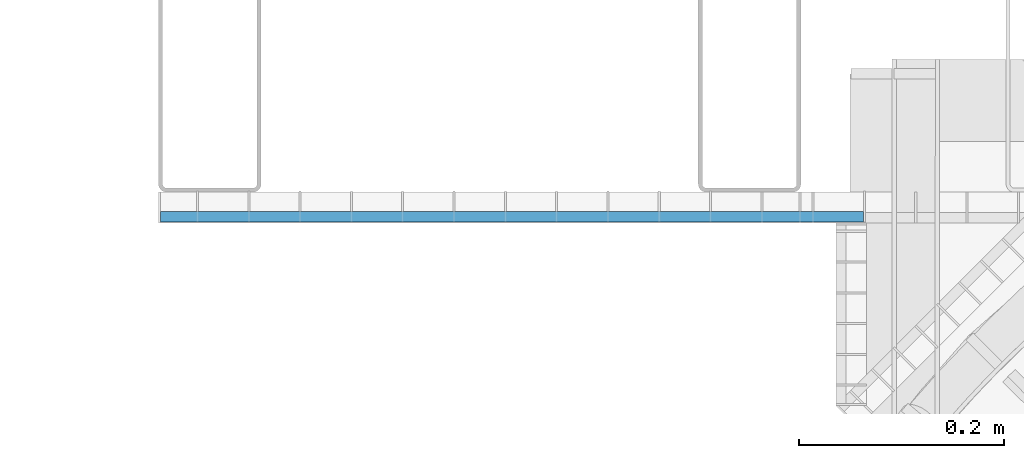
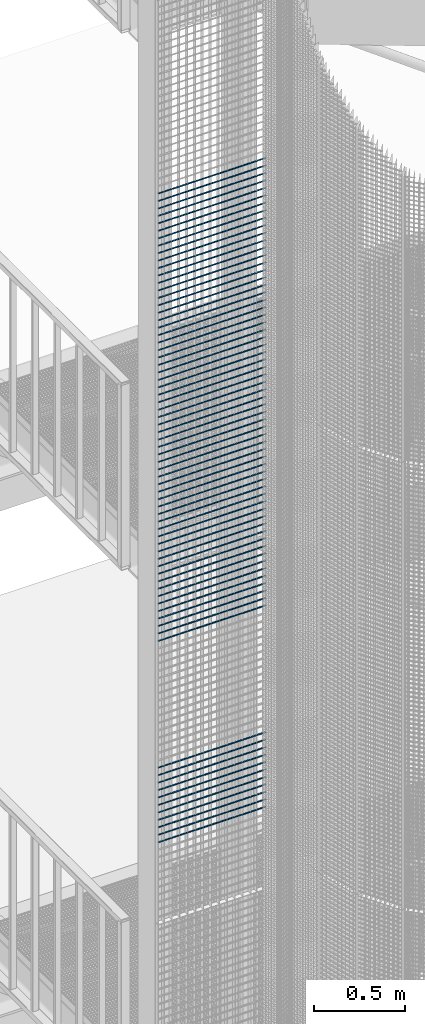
# One storey, part 213 of 1183: 72 beams, 1 element without a shape of its own.
"""IFC2X3 building model written with IfcOpenShell, lengths in millimetres."""

from ifc_helpers import new_model, si_unit, frame, origin_with_axes, origin_2d_with_axis, place, context, subcontext, project, spatial, rectangle, extrude, material, type_object, element, aggregate, save


model = new_model("IFC2X3")

# Units and contexts
model_context = context("Model", 3, precision=1e-05, world=origin_with_axes())
body_context = subcontext(model_context, "Body", "Model", "MODEL_VIEW")
ifc_project = project(units=[si_unit("LENGTHUNIT", "METRE", prefix="MILLI"), si_unit("AREAUNIT", "SQUARE_METRE"), si_unit("VOLUMEUNIT", "CUBIC_METRE"), si_unit("MASSUNIT", "GRAM", prefix="KILO"), si_unit("TIMEUNIT", "SECOND"), si_unit("PLANEANGLEUNIT", "RADIAN"), si_unit("SOLIDANGLEUNIT", "STERADIAN"), si_unit("THERMODYNAMICTEMPERATUREUNIT", "DEGREE_CELSIUS"), si_unit("LUMINOUSINTENSITYUNIT", "LUMEN")], contexts=[model_context])

# Site, building, storey
site_placement = place(None, origin_with_axes())
site = spatial("IfcSite", under=ifc_project, at=site_placement, Name="Undefined", CompositionType="ELEMENT")
building_placement = place(site_placement, origin_with_axes())
building = spatial("IfcBuilding", under=site, at=building_placement, Name="Undefined", CompositionType="ELEMENT")
storey_placement = place(building_placement, origin_with_axes())
storey = spatial("IfcBuildingStorey", under=building, at=storey_placement, Name="Undefined", CompositionType="ELEMENT", Elevation=0.0)

# Assembly, beams
assembly_placement = place(storey_placement, origin_with_axes())
assembly = element("IfcElementAssembly", 1, at=assembly_placement, inside=storey, Name="BORDURE", AssemblyPlace="NOTDEFINED", PredefinedType="NOTDEFINED")
ifc_material = material(Name="STEEL/S235JR")
beam_type = type_object("IfcBeamType", Name="PL2*10", PredefinedType="NOTDEFINED")
beam_1_placement = place(assembly_placement, frame((-1547.92041016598, 875.994689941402, 16089.998), z_axis=(0.0, -1.0, 0.0), x_axis=(1.0, 0.0, 0.0)))
beam_1 = element("IfcBeam", 2, at=beam_1_placement, type_object=beam_type, material=ifc_material, Name="ENTRETOISE", context=body_context, shape_type="SweptSolid", body=[
    extrude(rectangle(XDim=2.0, YDim=10.0, at=origin_2d_with_axis()), frame((685.0, 0.0, 0.0), z_axis=(-1.0, 0.0, 0.0), x_axis=(0.0, -1.0, 0.0)), (0.0, 0.0, 1.0), 685.0),
])
beam_2_placement = place(assembly_placement, frame((-1547.92041016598, 875.994689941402, 16039.998), z_axis=(0.0, -1.0, 0.0), x_axis=(1.0, 0.0, 0.0)))
beam_2 = element("IfcBeam", 3, at=beam_2_placement, type_object=beam_type, material=ifc_material, Name="ENTRETOISE", context=body_context, shape_type="SweptSolid", body=[
    extrude(rectangle(XDim=2.0, YDim=10.0, at=origin_2d_with_axis()), frame((685.0, 0.0, 0.0), z_axis=(-1.0, 0.0, 0.0), x_axis=(0.0, -1.0, 0.0)), (0.0, 0.0, 1.0), 685.0),
])
beam_3_placement = place(assembly_placement, frame((-1547.92041016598, 875.994689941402, 15989.998), z_axis=(0.0, -1.0, 0.0), x_axis=(1.0, 0.0, 0.0)))
beam_3 = element("IfcBeam", 4, at=beam_3_placement, type_object=beam_type, material=ifc_material, Name="ENTRETOISE", context=body_context, shape_type="SweptSolid", body=[
    extrude(rectangle(XDim=2.0, YDim=10.0, at=origin_2d_with_axis()), frame((685.0, 0.0, 0.0), z_axis=(-1.0, 0.0, 0.0), x_axis=(0.0, -1.0, 0.0)), (0.0, 0.0, 1.0), 685.0),
])
beam_4_placement = place(assembly_placement, frame((-1547.92041016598, 875.994689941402, 15939.998), z_axis=(0.0, -1.0, 0.0), x_axis=(1.0, 0.0, 0.0)))
beam_4 = element("IfcBeam", 5, at=beam_4_placement, type_object=beam_type, material=ifc_material, Name="ENTRETOISE", context=body_context, shape_type="SweptSolid", body=[
    extrude(rectangle(XDim=2.0, YDim=10.0, at=origin_2d_with_axis()), frame((685.0, 0.0, 0.0), z_axis=(-1.0, 0.0, 0.0), x_axis=(0.0, -1.0, 0.0)), (0.0, 0.0, 1.0), 685.0),
])
beam_5_placement = place(assembly_placement, frame((-1547.92041016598, 875.994689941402, 15889.998), z_axis=(0.0, -1.0, 0.0), x_axis=(1.0, 0.0, 0.0)))
beam_5 = element("IfcBeam", 6, at=beam_5_placement, type_object=beam_type, material=ifc_material, Name="ENTRETOISE", context=body_context, shape_type="SweptSolid", body=[
    extrude(rectangle(XDim=2.0, YDim=10.0, at=origin_2d_with_axis()), frame((685.0, 0.0, 0.0), z_axis=(-1.0, 0.0, 0.0), x_axis=(0.0, -1.0, 0.0)), (0.0, 0.0, 1.0), 685.0),
])
beam_6_placement = place(assembly_placement, frame((-1547.92041016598, 875.994689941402, 15839.998), z_axis=(0.0, -1.0, 0.0), x_axis=(1.0, 0.0, 0.0)))
beam_6 = element("IfcBeam", 7, at=beam_6_placement, type_object=beam_type, material=ifc_material, Name="ENTRETOISE", context=body_context, shape_type="SweptSolid", body=[
    extrude(rectangle(XDim=2.0, YDim=10.0, at=origin_2d_with_axis()), frame((685.0, 0.0, 0.0), z_axis=(-1.0, 0.0, 0.0), x_axis=(0.0, -1.0, 0.0)), (0.0, 0.0, 1.0), 685.0),
])
beam_7_placement = place(assembly_placement, frame((-1547.92041016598, 875.994689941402, 15789.998), z_axis=(0.0, -1.0, 0.0), x_axis=(1.0, 0.0, 0.0)))
beam_7 = element("IfcBeam", 8, at=beam_7_placement, type_object=beam_type, material=ifc_material, Name="ENTRETOISE", context=body_context, shape_type="SweptSolid", body=[
    extrude(rectangle(XDim=2.0, YDim=10.0, at=origin_2d_with_axis()), frame((685.0, 0.0, 0.0), z_axis=(-1.0, 0.0, 0.0), x_axis=(0.0, -1.0, 0.0)), (0.0, 0.0, 1.0), 685.0),
])
beam_8_placement = place(assembly_placement, frame((-1547.92041016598, 875.994689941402, 15739.998), z_axis=(0.0, -1.0, 0.0), x_axis=(1.0, 0.0, 0.0)))
beam_8 = element("IfcBeam", 9, at=beam_8_placement, type_object=beam_type, material=ifc_material, Name="ENTRETOISE", context=body_context, shape_type="SweptSolid", body=[
    extrude(rectangle(XDim=2.0, YDim=10.0, at=origin_2d_with_axis()), frame((685.0, 0.0, 0.0), z_axis=(-1.0, 0.0, 0.0), x_axis=(0.0, -1.0, 0.0)), (0.0, 0.0, 1.0), 685.0),
])
beam_9_placement = place(assembly_placement, frame((-1547.92041016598, 875.994689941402, 15689.998), z_axis=(0.0, -1.0, 0.0), x_axis=(1.0, 0.0, 0.0)))
beam_9 = element("IfcBeam", 10, at=beam_9_placement, type_object=beam_type, material=ifc_material, Name="ENTRETOISE", context=body_context, shape_type="SweptSolid", body=[
    extrude(rectangle(XDim=2.0, YDim=10.0, at=origin_2d_with_axis()), frame((685.0, 0.0, 0.0), z_axis=(-1.0, 0.0, 0.0), x_axis=(0.0, -1.0, 0.0)), (0.0, 0.0, 1.0), 685.0),
])
beam_10_placement = place(assembly_placement, frame((-1547.92041016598, 875.994689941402, 15639.998), z_axis=(0.0, -1.0, 0.0), x_axis=(1.0, 0.0, 0.0)))
beam_10 = element("IfcBeam", 11, at=beam_10_placement, type_object=beam_type, material=ifc_material, Name="ENTRETOISE", context=body_context, shape_type="SweptSolid", body=[
    extrude(rectangle(XDim=2.0, YDim=10.0, at=origin_2d_with_axis()), frame((685.0, 0.0, 0.0), z_axis=(-1.0, 0.0, 0.0), x_axis=(0.0, -1.0, 0.0)), (0.0, 0.0, 1.0), 685.0),
])
beam_11_placement = place(assembly_placement, frame((-1547.92041016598, 875.994689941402, 15589.998), z_axis=(0.0, -1.0, 0.0), x_axis=(1.0, 0.0, 0.0)))
beam_11 = element("IfcBeam", 12, at=beam_11_placement, type_object=beam_type, material=ifc_material, Name="ENTRETOISE", context=body_context, shape_type="SweptSolid", body=[
    extrude(rectangle(XDim=2.0, YDim=10.0, at=origin_2d_with_axis()), frame((685.0, 0.0, 0.0), z_axis=(-1.0, 0.0, 0.0), x_axis=(0.0, -1.0, 0.0)), (0.0, 0.0, 1.0), 685.0),
])
beam_12_placement = place(assembly_placement, frame((-1547.92041016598, 875.994689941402, 15539.998), z_axis=(0.0, -1.0, 0.0), x_axis=(1.0, 0.0, 0.0)))
beam_12 = element("IfcBeam", 13, at=beam_12_placement, type_object=beam_type, material=ifc_material, Name="ENTRETOISE", context=body_context, shape_type="SweptSolid", body=[
    extrude(rectangle(XDim=2.0, YDim=10.0, at=origin_2d_with_axis()), frame((685.0, 0.0, 0.0), z_axis=(-1.0, 0.0, 0.0), x_axis=(0.0, -1.0, 0.0)), (0.0, 0.0, 1.0), 685.0),
])
beam_13_placement = place(assembly_placement, frame((-1547.92041016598, 875.994689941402, 15489.998), z_axis=(0.0, -1.0, 0.0), x_axis=(1.0, 0.0, 0.0)))
beam_13 = element("IfcBeam", 14, at=beam_13_placement, type_object=beam_type, material=ifc_material, Name="ENTRETOISE", context=body_context, shape_type="SweptSolid", body=[
    extrude(rectangle(XDim=2.0, YDim=10.0, at=origin_2d_with_axis()), frame((685.0, 0.0, 0.0), z_axis=(-1.0, 0.0, 0.0), x_axis=(0.0, -1.0, 0.0)), (0.0, 0.0, 1.0), 685.0),
])
beam_14_placement = place(assembly_placement, frame((-1547.92041016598, 875.994689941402, 15439.998), z_axis=(0.0, -1.0, 0.0), x_axis=(1.0, 0.0, 0.0)))
beam_14 = element("IfcBeam", 15, at=beam_14_placement, type_object=beam_type, material=ifc_material, Name="ENTRETOISE", context=body_context, shape_type="SweptSolid", body=[
    extrude(rectangle(XDim=2.0, YDim=10.0, at=origin_2d_with_axis()), frame((685.0, 0.0, 0.0), z_axis=(-1.0, 0.0, 0.0), x_axis=(0.0, -1.0, 0.0)), (0.0, 0.0, 1.0), 685.0),
])
beam_15_placement = place(assembly_placement, frame((-1547.92041016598, 875.994689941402, 15389.998), z_axis=(0.0, -1.0, 0.0), x_axis=(1.0, 0.0, 0.0)))
beam_15 = element("IfcBeam", 16, at=beam_15_placement, type_object=beam_type, material=ifc_material, Name="ENTRETOISE", context=body_context, shape_type="SweptSolid", body=[
    extrude(rectangle(XDim=2.0, YDim=10.0, at=origin_2d_with_axis()), frame((685.0, 0.0, 0.0), z_axis=(-1.0, 0.0, 0.0), x_axis=(0.0, -1.0, 0.0)), (0.0, 0.0, 1.0), 685.0),
])
beam_16_placement = place(assembly_placement, frame((-1547.92041016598, 875.994689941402, 15339.998), z_axis=(0.0, -1.0, 0.0), x_axis=(1.0, 0.0, 0.0)))
beam_16 = element("IfcBeam", 17, at=beam_16_placement, type_object=beam_type, material=ifc_material, Name="ENTRETOISE", context=body_context, shape_type="SweptSolid", body=[
    extrude(rectangle(XDim=2.0, YDim=10.0, at=origin_2d_with_axis()), frame((685.0, 0.0, 0.0), z_axis=(-1.0, 0.0, 0.0), x_axis=(0.0, -1.0, 0.0)), (0.0, 0.0, 1.0), 685.0),
])
beam_17_placement = place(assembly_placement, frame((-1547.92041016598, 875.994689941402, 15289.998), z_axis=(0.0, -1.0, 0.0), x_axis=(1.0, 0.0, 0.0)))
beam_17 = element("IfcBeam", 18, at=beam_17_placement, type_object=beam_type, material=ifc_material, Name="ENTRETOISE", context=body_context, shape_type="SweptSolid", body=[
    extrude(rectangle(XDim=2.0, YDim=10.0, at=origin_2d_with_axis()), frame((685.0, 0.0, 0.0), z_axis=(-1.0, 0.0, 0.0), x_axis=(0.0, -1.0, 0.0)), (0.0, 0.0, 1.0), 685.0),
])
beam_18_placement = place(assembly_placement, frame((-1547.92041016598, 875.994689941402, 15239.998), z_axis=(0.0, -1.0, 0.0), x_axis=(1.0, 0.0, 0.0)))
beam_18 = element("IfcBeam", 19, at=beam_18_placement, type_object=beam_type, material=ifc_material, Name="ENTRETOISE", context=body_context, shape_type="SweptSolid", body=[
    extrude(rectangle(XDim=2.0, YDim=10.0, at=origin_2d_with_axis()), frame((685.0, 0.0, 0.0), z_axis=(-1.0, 0.0, 0.0), x_axis=(0.0, -1.0, 0.0)), (0.0, 0.0, 1.0), 685.0),
])
beam_19_placement = place(assembly_placement, frame((-1547.92041016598, 875.994689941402, 15189.998), z_axis=(0.0, -1.0, 0.0), x_axis=(1.0, 0.0, 0.0)))
beam_19 = element("IfcBeam", 20, at=beam_19_placement, type_object=beam_type, material=ifc_material, Name="ENTRETOISE", context=body_context, shape_type="SweptSolid", body=[
    extrude(rectangle(XDim=2.0, YDim=10.0, at=origin_2d_with_axis()), frame((685.0, 0.0, 0.0), z_axis=(-1.0, 0.0, 0.0), x_axis=(0.0, -1.0, 0.0)), (0.0, 0.0, 1.0), 685.0),
])
beam_20_placement = place(assembly_placement, frame((-1547.92041016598, 875.994689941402, 15139.998), z_axis=(0.0, -1.0, 0.0), x_axis=(1.0, 0.0, 0.0)))
beam_20 = element("IfcBeam", 21, at=beam_20_placement, type_object=beam_type, material=ifc_material, Name="ENTRETOISE", context=body_context, shape_type="SweptSolid", body=[
    extrude(rectangle(XDim=2.0, YDim=10.0, at=origin_2d_with_axis()), frame((685.0, 0.0, 0.0), z_axis=(-1.0, 0.0, 0.0), x_axis=(0.0, -1.0, 0.0)), (0.0, 0.0, 1.0), 685.0),
])
beam_21_placement = place(assembly_placement, frame((-1547.92041016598, 875.994689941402, 15089.998), z_axis=(0.0, -1.0, 0.0), x_axis=(1.0, 0.0, 0.0)))
beam_21 = element("IfcBeam", 22, at=beam_21_placement, type_object=beam_type, material=ifc_material, Name="ENTRETOISE", context=body_context, shape_type="SweptSolid", body=[
    extrude(rectangle(XDim=2.0, YDim=10.0, at=origin_2d_with_axis()), frame((685.0, 0.0, 0.0), z_axis=(-1.0, 0.0, 0.0), x_axis=(0.0, -1.0, 0.0)), (0.0, 0.0, 1.0), 685.0),
])
beam_22_placement = place(assembly_placement, frame((-1547.92041016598, 875.994689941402, 15039.998), z_axis=(0.0, -1.0, 0.0), x_axis=(1.0, 0.0, 0.0)))
beam_22 = element("IfcBeam", 23, at=beam_22_placement, type_object=beam_type, material=ifc_material, Name="ENTRETOISE", context=body_context, shape_type="SweptSolid", body=[
    extrude(rectangle(XDim=2.0, YDim=10.0, at=origin_2d_with_axis()), frame((685.0, 0.0, 0.0), z_axis=(-1.0, 0.0, 0.0), x_axis=(0.0, -1.0, 0.0)), (0.0, 0.0, 1.0), 685.0),
])
beam_23_placement = place(assembly_placement, frame((-1547.92041016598, 875.994689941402, 14989.998), z_axis=(0.0, -1.0, 0.0), x_axis=(1.0, 0.0, 0.0)))
beam_23 = element("IfcBeam", 24, at=beam_23_placement, type_object=beam_type, material=ifc_material, Name="ENTRETOISE", context=body_context, shape_type="SweptSolid", body=[
    extrude(rectangle(XDim=2.0, YDim=10.0, at=origin_2d_with_axis()), frame((685.0, 0.0, 0.0), z_axis=(-1.0, 0.0, 0.0), x_axis=(0.0, -1.0, 0.0)), (0.0, 0.0, 1.0), 685.0),
])
beam_24_placement = place(assembly_placement, frame((-1547.92041016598, 875.994689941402, 14939.998), z_axis=(0.0, -1.0, 0.0), x_axis=(1.0, 0.0, 0.0)))
beam_24 = element("IfcBeam", 25, at=beam_24_placement, type_object=beam_type, material=ifc_material, Name="ENTRETOISE", context=body_context, shape_type="SweptSolid", body=[
    extrude(rectangle(XDim=2.0, YDim=10.0, at=origin_2d_with_axis()), frame((685.0, 0.0, 0.0), z_axis=(-1.0, 0.0, 0.0), x_axis=(0.0, -1.0, 0.0)), (0.0, 0.0, 1.0), 685.0),
])
beam_25_placement = place(assembly_placement, frame((-1547.92041016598, 875.994689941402, 14889.998), z_axis=(0.0, -1.0, 0.0), x_axis=(1.0, 0.0, 0.0)))
beam_25 = element("IfcBeam", 26, at=beam_25_placement, type_object=beam_type, material=ifc_material, Name="ENTRETOISE", context=body_context, shape_type="SweptSolid", body=[
    extrude(rectangle(XDim=2.0, YDim=10.0, at=origin_2d_with_axis()), frame((685.0, 0.0, 0.0), z_axis=(-1.0, 0.0, 0.0), x_axis=(0.0, -1.0, 0.0)), (0.0, 0.0, 1.0), 685.0),
])
beam_26_placement = place(assembly_placement, frame((-1547.92041016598, 875.994689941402, 14839.998), z_axis=(0.0, -1.0, 0.0), x_axis=(1.0, 0.0, 0.0)))
beam_26 = element("IfcBeam", 27, at=beam_26_placement, type_object=beam_type, material=ifc_material, Name="ENTRETOISE", context=body_context, shape_type="SweptSolid", body=[
    extrude(rectangle(XDim=2.0, YDim=10.0, at=origin_2d_with_axis()), frame((685.0, 0.0, 0.0), z_axis=(-1.0, 0.0, 0.0), x_axis=(0.0, -1.0, 0.0)), (0.0, 0.0, 1.0), 685.0),
])
beam_27_placement = place(assembly_placement, frame((-1547.92041016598, 875.994689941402, 14789.998), z_axis=(0.0, -1.0, 0.0), x_axis=(1.0, 0.0, 0.0)))
beam_27 = element("IfcBeam", 28, at=beam_27_placement, type_object=beam_type, material=ifc_material, Name="ENTRETOISE", context=body_context, shape_type="SweptSolid", body=[
    extrude(rectangle(XDim=2.0, YDim=10.0, at=origin_2d_with_axis()), frame((685.0, 0.0, 0.0), z_axis=(-1.0, 0.0, 0.0), x_axis=(0.0, -1.0, 0.0)), (0.0, 0.0, 1.0), 685.0),
])
beam_28_placement = place(assembly_placement, frame((-1547.92041016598, 875.994689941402, 14739.998), z_axis=(0.0, -1.0, 0.0), x_axis=(1.0, 0.0, 0.0)))
beam_28 = element("IfcBeam", 29, at=beam_28_placement, type_object=beam_type, material=ifc_material, Name="ENTRETOISE", context=body_context, shape_type="SweptSolid", body=[
    extrude(rectangle(XDim=2.0, YDim=10.0, at=origin_2d_with_axis()), frame((685.0, 0.0, 0.0), z_axis=(-1.0, 0.0, 0.0), x_axis=(0.0, -1.0, 0.0)), (0.0, 0.0, 1.0), 685.0),
])
beam_29_placement = place(assembly_placement, frame((-1547.92041016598, 875.994689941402, 14689.998), z_axis=(0.0, -1.0, 0.0), x_axis=(1.0, 0.0, 0.0)))
beam_29 = element("IfcBeam", 30, at=beam_29_placement, type_object=beam_type, material=ifc_material, Name="ENTRETOISE", context=body_context, shape_type="SweptSolid", body=[
    extrude(rectangle(XDim=2.0, YDim=10.0, at=origin_2d_with_axis()), frame((685.0, 0.0, 0.0), z_axis=(-1.0, 0.0, 0.0), x_axis=(0.0, -1.0, 0.0)), (0.0, 0.0, 1.0), 685.0),
])
beam_30_placement = place(assembly_placement, frame((-1547.92041016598, 875.994689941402, 14639.998), z_axis=(0.0, -1.0, 0.0), x_axis=(1.0, 0.0, 0.0)))
beam_30 = element("IfcBeam", 31, at=beam_30_placement, type_object=beam_type, material=ifc_material, Name="ENTRETOISE", context=body_context, shape_type="SweptSolid", body=[
    extrude(rectangle(XDim=2.0, YDim=10.0, at=origin_2d_with_axis()), frame((685.0, 0.0, 0.0), z_axis=(-1.0, 0.0, 0.0), x_axis=(0.0, -1.0, 0.0)), (0.0, 0.0, 1.0), 685.0),
])
beam_31_placement = place(assembly_placement, frame((-1547.92041016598, 875.994689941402, 14589.998), z_axis=(0.0, -1.0, 0.0), x_axis=(1.0, 0.0, 0.0)))
beam_31 = element("IfcBeam", 32, at=beam_31_placement, type_object=beam_type, material=ifc_material, Name="ENTRETOISE", context=body_context, shape_type="SweptSolid", body=[
    extrude(rectangle(XDim=2.0, YDim=10.0, at=origin_2d_with_axis()), frame((685.0, 0.0, 0.0), z_axis=(-1.0, 0.0, 0.0), x_axis=(0.0, -1.0, 0.0)), (0.0, 0.0, 1.0), 685.0),
])
beam_32_placement = place(assembly_placement, frame((-1547.92041016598, 875.994689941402, 14539.998), z_axis=(0.0, -1.0, 0.0), x_axis=(1.0, 0.0, 0.0)))
beam_32 = element("IfcBeam", 33, at=beam_32_placement, type_object=beam_type, material=ifc_material, Name="ENTRETOISE", context=body_context, shape_type="SweptSolid", body=[
    extrude(rectangle(XDim=2.0, YDim=10.0, at=origin_2d_with_axis()), frame((685.0, 0.0, 0.0), z_axis=(-1.0, 0.0, 0.0), x_axis=(0.0, -1.0, 0.0)), (0.0, 0.0, 1.0), 685.0),
])
beam_33_placement = place(assembly_placement, frame((-1547.92041016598, 875.994689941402, 14489.998), z_axis=(0.0, -1.0, 0.0), x_axis=(1.0, 0.0, 0.0)))
beam_33 = element("IfcBeam", 34, at=beam_33_placement, type_object=beam_type, material=ifc_material, Name="ENTRETOISE", context=body_context, shape_type="SweptSolid", body=[
    extrude(rectangle(XDim=2.0, YDim=10.0, at=origin_2d_with_axis()), frame((685.0, 0.0, 0.0), z_axis=(-1.0, 0.0, 0.0), x_axis=(0.0, -1.0, 0.0)), (0.0, 0.0, 1.0), 685.0),
])
beam_34_placement = place(assembly_placement, frame((-1547.92041016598, 875.994689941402, 14439.998), z_axis=(0.0, -1.0, 0.0), x_axis=(1.0, 0.0, 0.0)))
beam_34 = element("IfcBeam", 35, at=beam_34_placement, type_object=beam_type, material=ifc_material, Name="ENTRETOISE", context=body_context, shape_type="SweptSolid", body=[
    extrude(rectangle(XDim=2.0, YDim=10.0, at=origin_2d_with_axis()), frame((685.0, 0.0, 0.0), z_axis=(-1.0, 0.0, 0.0), x_axis=(0.0, -1.0, 0.0)), (0.0, 0.0, 1.0), 685.0),
])
beam_35_placement = place(assembly_placement, frame((-1547.92041016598, 875.994689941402, 14389.998), z_axis=(0.0, -1.0, 0.0), x_axis=(1.0, 0.0, 0.0)))
beam_35 = element("IfcBeam", 36, at=beam_35_placement, type_object=beam_type, material=ifc_material, Name="ENTRETOISE", context=body_context, shape_type="SweptSolid", body=[
    extrude(rectangle(XDim=2.0, YDim=10.0, at=origin_2d_with_axis()), frame((685.0, 0.0, 0.0), z_axis=(-1.0, 0.0, 0.0), x_axis=(0.0, -1.0, 0.0)), (0.0, 0.0, 1.0), 685.0),
])
beam_36_placement = place(assembly_placement, frame((-1547.92041016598, 875.994689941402, 14339.998), z_axis=(0.0, -1.0, 0.0), x_axis=(1.0, 0.0, 0.0)))
beam_36 = element("IfcBeam", 37, at=beam_36_placement, type_object=beam_type, material=ifc_material, Name="ENTRETOISE", context=body_context, shape_type="SweptSolid", body=[
    extrude(rectangle(XDim=2.0, YDim=10.0, at=origin_2d_with_axis()), frame((685.0, 0.0, 0.0), z_axis=(-1.0, 0.0, 0.0), x_axis=(0.0, -1.0, 0.0)), (0.0, 0.0, 1.0), 685.0),
])
beam_37_placement = place(assembly_placement, frame((-1547.92041016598, 875.994689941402, 14289.998), z_axis=(0.0, -1.0, 0.0), x_axis=(1.0, 0.0, 0.0)))
beam_37 = element("IfcBeam", 38, at=beam_37_placement, type_object=beam_type, material=ifc_material, Name="ENTRETOISE", context=body_context, shape_type="SweptSolid", body=[
    extrude(rectangle(XDim=2.0, YDim=10.0, at=origin_2d_with_axis()), frame((685.0, 0.0, 0.0), z_axis=(-1.0, 0.0, 0.0), x_axis=(0.0, -1.0, 0.0)), (0.0, 0.0, 1.0), 685.0),
])
beam_38_placement = place(assembly_placement, frame((-1547.92041016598, 875.994689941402, 14239.998), z_axis=(0.0, -1.0, 0.0), x_axis=(1.0, 0.0, 0.0)))
beam_38 = element("IfcBeam", 39, at=beam_38_placement, type_object=beam_type, material=ifc_material, Name="ENTRETOISE", context=body_context, shape_type="SweptSolid", body=[
    extrude(rectangle(XDim=2.0, YDim=10.0, at=origin_2d_with_axis()), frame((685.0, 0.0, 0.0), z_axis=(-1.0, 0.0, 0.0), x_axis=(0.0, -1.0, 0.0)), (0.0, 0.0, 1.0), 685.0),
])
beam_39_placement = place(assembly_placement, frame((-1547.92041016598, 875.994689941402, 14189.998), z_axis=(0.0, -1.0, 0.0), x_axis=(1.0, 0.0, 0.0)))
beam_39 = element("IfcBeam", 40, at=beam_39_placement, type_object=beam_type, material=ifc_material, Name="ENTRETOISE", context=body_context, shape_type="SweptSolid", body=[
    extrude(rectangle(XDim=2.0, YDim=10.0, at=origin_2d_with_axis()), frame((685.0, 0.0, 0.0), z_axis=(-1.0, 0.0, 0.0), x_axis=(0.0, -1.0, 0.0)), (0.0, 0.0, 1.0), 685.0),
])
beam_40_placement = place(assembly_placement, frame((-1547.92041016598, 875.994689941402, 14139.998), z_axis=(0.0, -1.0, 0.0), x_axis=(1.0, 0.0, 0.0)))
beam_40 = element("IfcBeam", 41, at=beam_40_placement, type_object=beam_type, material=ifc_material, Name="ENTRETOISE", context=body_context, shape_type="SweptSolid", body=[
    extrude(rectangle(XDim=2.0, YDim=10.0, at=origin_2d_with_axis()), frame((685.0, 0.0, 0.0), z_axis=(-1.0, 0.0, 0.0), x_axis=(0.0, -1.0, 0.0)), (0.0, 0.0, 1.0), 685.0),
])
beam_41_placement = place(assembly_placement, frame((-1547.92041016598, 875.994689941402, 14089.998), z_axis=(0.0, -1.0, 0.0), x_axis=(1.0, 0.0, 0.0)))
beam_41 = element("IfcBeam", 42, at=beam_41_placement, type_object=beam_type, material=ifc_material, Name="ENTRETOISE", context=body_context, shape_type="SweptSolid", body=[
    extrude(rectangle(XDim=2.0, YDim=10.0, at=origin_2d_with_axis()), frame((685.0, 0.0, 0.0), z_axis=(-1.0, 0.0, 0.0), x_axis=(0.0, -1.0, 0.0)), (0.0, 0.0, 1.0), 685.0),
])
beam_42_placement = place(assembly_placement, frame((-1547.92041016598, 875.994689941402, 14039.998), z_axis=(0.0, -1.0, 0.0), x_axis=(1.0, 0.0, 0.0)))
beam_42 = element("IfcBeam", 43, at=beam_42_placement, type_object=beam_type, material=ifc_material, Name="ENTRETOISE", context=body_context, shape_type="SweptSolid", body=[
    extrude(rectangle(XDim=2.0, YDim=10.0, at=origin_2d_with_axis()), frame((685.0, 0.0, 0.0), z_axis=(-1.0, 0.0, 0.0), x_axis=(0.0, -1.0, 0.0)), (0.0, 0.0, 1.0), 685.0),
])
beam_43_placement = place(assembly_placement, frame((-1547.92041016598, 875.994689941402, 13989.998), z_axis=(0.0, -1.0, 0.0), x_axis=(1.0, 0.0, 0.0)))
beam_43 = element("IfcBeam", 44, at=beam_43_placement, type_object=beam_type, material=ifc_material, Name="ENTRETOISE", context=body_context, shape_type="SweptSolid", body=[
    extrude(rectangle(XDim=2.0, YDim=10.0, at=origin_2d_with_axis()), frame((685.0, 0.0, 0.0), z_axis=(-1.0, 0.0, 0.0), x_axis=(0.0, -1.0, 0.0)), (0.0, 0.0, 1.0), 685.0),
])
beam_44_placement = place(assembly_placement, frame((-1547.92041016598, 875.994689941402, 13939.998), z_axis=(0.0, -1.0, 0.0), x_axis=(1.0, 0.0, 0.0)))
beam_44 = element("IfcBeam", 45, at=beam_44_placement, type_object=beam_type, material=ifc_material, Name="ENTRETOISE", context=body_context, shape_type="SweptSolid", body=[
    extrude(rectangle(XDim=2.0, YDim=10.0, at=origin_2d_with_axis()), frame((685.0, 0.0, 0.0), z_axis=(-1.0, 0.0, 0.0), x_axis=(0.0, -1.0, 0.0)), (0.0, 0.0, 1.0), 685.0),
])
beam_45_placement = place(assembly_placement, frame((-1547.92041016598, 875.994689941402, 13889.998), z_axis=(0.0, -1.0, 0.0), x_axis=(1.0, 0.0, 0.0)))
beam_45 = element("IfcBeam", 46, at=beam_45_placement, type_object=beam_type, material=ifc_material, Name="ENTRETOISE", context=body_context, shape_type="SweptSolid", body=[
    extrude(rectangle(XDim=2.0, YDim=10.0, at=origin_2d_with_axis()), frame((685.0, 0.0, 0.0), z_axis=(-1.0, 0.0, 0.0), x_axis=(0.0, -1.0, 0.0)), (0.0, 0.0, 1.0), 685.0),
])
beam_46_placement = place(assembly_placement, frame((-1547.92041016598, 875.994689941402, 13839.998), z_axis=(0.0, -1.0, 0.0), x_axis=(1.0, 0.0, 0.0)))
beam_46 = element("IfcBeam", 47, at=beam_46_placement, type_object=beam_type, material=ifc_material, Name="ENTRETOISE", context=body_context, shape_type="SweptSolid", body=[
    extrude(rectangle(XDim=2.0, YDim=10.0, at=origin_2d_with_axis()), frame((685.0, 0.0, 0.0), z_axis=(-1.0, 0.0, 0.0), x_axis=(0.0, -1.0, 0.0)), (0.0, 0.0, 1.0), 685.0),
])
beam_47_placement = place(assembly_placement, frame((-1547.92041016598, 875.994689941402, 13789.998), z_axis=(0.0, -1.0, 0.0), x_axis=(1.0, 0.0, 0.0)))
beam_47 = element("IfcBeam", 48, at=beam_47_placement, type_object=beam_type, material=ifc_material, Name="ENTRETOISE", context=body_context, shape_type="SweptSolid", body=[
    extrude(rectangle(XDim=2.0, YDim=10.0, at=origin_2d_with_axis()), frame((685.0, 0.0, 0.0), z_axis=(-1.0, 0.0, 0.0), x_axis=(0.0, -1.0, 0.0)), (0.0, 0.0, 1.0), 685.0),
])
beam_48_placement = place(assembly_placement, frame((-1547.92041016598, 875.994689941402, 13739.998), z_axis=(0.0, -1.0, 0.0), x_axis=(1.0, 0.0, 0.0)))
beam_48 = element("IfcBeam", 49, at=beam_48_placement, type_object=beam_type, material=ifc_material, Name="ENTRETOISE", context=body_context, shape_type="SweptSolid", body=[
    extrude(rectangle(XDim=2.0, YDim=10.0, at=origin_2d_with_axis()), frame((685.0, 0.0, 0.0), z_axis=(-1.0, 0.0, 0.0), x_axis=(0.0, -1.0, 0.0)), (0.0, 0.0, 1.0), 685.0),
])
beam_49_placement = place(assembly_placement, frame((-1547.92041016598, 875.994689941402, 13689.998), z_axis=(0.0, -1.0, 0.0), x_axis=(1.0, 0.0, 0.0)))
beam_49 = element("IfcBeam", 50, at=beam_49_placement, type_object=beam_type, material=ifc_material, Name="ENTRETOISE", context=body_context, shape_type="SweptSolid", body=[
    extrude(rectangle(XDim=2.0, YDim=10.0, at=origin_2d_with_axis()), frame((685.0, 0.0, 0.0), z_axis=(-1.0, 0.0, 0.0), x_axis=(0.0, -1.0, 0.0)), (0.0, 0.0, 1.0), 685.0),
])
beam_50_placement = place(assembly_placement, frame((-1547.92041016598, 875.994689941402, 13639.998), z_axis=(0.0, -1.0, 0.0), x_axis=(1.0, 0.0, 0.0)))
beam_50 = element("IfcBeam", 51, at=beam_50_placement, type_object=beam_type, material=ifc_material, Name="ENTRETOISE", context=body_context, shape_type="SweptSolid", body=[
    extrude(rectangle(XDim=2.0, YDim=10.0, at=origin_2d_with_axis()), frame((685.0, 0.0, 0.0), z_axis=(-1.0, 0.0, 0.0), x_axis=(0.0, -1.0, 0.0)), (0.0, 0.0, 1.0), 685.0),
])
beam_51_placement = place(assembly_placement, frame((-1547.92041016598, 875.994689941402, 13589.998), z_axis=(0.0, -1.0, 0.0), x_axis=(1.0, 0.0, 0.0)))
beam_51 = element("IfcBeam", 52, at=beam_51_placement, type_object=beam_type, material=ifc_material, Name="ENTRETOISE", context=body_context, shape_type="SweptSolid", body=[
    extrude(rectangle(XDim=2.0, YDim=10.0, at=origin_2d_with_axis()), frame((685.0, 0.0, 0.0), z_axis=(-1.0, 0.0, 0.0), x_axis=(0.0, -1.0, 0.0)), (0.0, 0.0, 1.0), 685.0),
])
beam_52_placement = place(assembly_placement, frame((-1547.92041016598, 875.994689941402, 13539.998), z_axis=(0.0, -1.0, 0.0), x_axis=(1.0, 0.0, 0.0)))
beam_52 = element("IfcBeam", 53, at=beam_52_placement, type_object=beam_type, material=ifc_material, Name="ENTRETOISE", context=body_context, shape_type="SweptSolid", body=[
    extrude(rectangle(XDim=2.0, YDim=10.0, at=origin_2d_with_axis()), frame((685.0, 0.0, 0.0), z_axis=(-1.0, 0.0, 0.0), x_axis=(0.0, -1.0, 0.0)), (0.0, 0.0, 1.0), 685.0),
])
beam_53_placement = place(assembly_placement, frame((-1547.92041016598, 875.994689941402, 13489.998), z_axis=(0.0, -1.0, 0.0), x_axis=(1.0, 0.0, 0.0)))
beam_53 = element("IfcBeam", 54, at=beam_53_placement, type_object=beam_type, material=ifc_material, Name="ENTRETOISE", context=body_context, shape_type="SweptSolid", body=[
    extrude(rectangle(XDim=2.0, YDim=10.0, at=origin_2d_with_axis()), frame((685.0, 0.0, 0.0), z_axis=(-1.0, 0.0, 0.0), x_axis=(0.0, -1.0, 0.0)), (0.0, 0.0, 1.0), 685.0),
])
beam_54_placement = place(assembly_placement, frame((-1547.92041016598, 875.994689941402, 13439.998), z_axis=(0.0, -1.0, 0.0), x_axis=(1.0, 0.0, 0.0)))
beam_54 = element("IfcBeam", 55, at=beam_54_placement, type_object=beam_type, material=ifc_material, Name="ENTRETOISE", context=body_context, shape_type="SweptSolid", body=[
    extrude(rectangle(XDim=2.0, YDim=10.0, at=origin_2d_with_axis()), frame((685.0, 0.0, 0.0), z_axis=(-1.0, 0.0, 0.0), x_axis=(0.0, -1.0, 0.0)), (0.0, 0.0, 1.0), 685.0),
])
beam_55_placement = place(assembly_placement, frame((-1547.92041016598, 875.994689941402, 13389.998), z_axis=(0.0, -1.0, 0.0), x_axis=(1.0, 0.0, 0.0)))
beam_55 = element("IfcBeam", 56, at=beam_55_placement, type_object=beam_type, material=ifc_material, Name="ENTRETOISE", context=body_context, shape_type="SweptSolid", body=[
    extrude(rectangle(XDim=2.0, YDim=10.0, at=origin_2d_with_axis()), frame((685.0, 0.0, 0.0), z_axis=(-1.0, 0.0, 0.0), x_axis=(0.0, -1.0, 0.0)), (0.0, 0.0, 1.0), 685.0),
])
beam_56_placement = place(assembly_placement, frame((-1547.92041016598, 875.994689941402, 13339.998), z_axis=(0.0, -1.0, 0.0), x_axis=(1.0, 0.0, 0.0)))
beam_56 = element("IfcBeam", 57, at=beam_56_placement, type_object=beam_type, material=ifc_material, Name="ENTRETOISE", context=body_context, shape_type="SweptSolid", body=[
    extrude(rectangle(XDim=2.0, YDim=10.0, at=origin_2d_with_axis()), frame((685.0, 0.0, 0.0), z_axis=(-1.0, 0.0, 0.0), x_axis=(0.0, -1.0, 0.0)), (0.0, 0.0, 1.0), 685.0),
])
beam_57_placement = place(assembly_placement, frame((-1547.92041016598, 875.994689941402, 13289.998), z_axis=(0.0, -1.0, 0.0), x_axis=(1.0, 0.0, 0.0)))
beam_57 = element("IfcBeam", 58, at=beam_57_placement, type_object=beam_type, material=ifc_material, Name="ENTRETOISE", context=body_context, shape_type="SweptSolid", body=[
    extrude(rectangle(XDim=2.0, YDim=10.0, at=origin_2d_with_axis()), frame((685.0, 0.0, 0.0), z_axis=(-1.0, 0.0, 0.0), x_axis=(0.0, -1.0, 0.0)), (0.0, 0.0, 1.0), 685.0),
])
beam_58_placement = place(assembly_placement, frame((-1547.92041016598, 875.994689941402, 13239.998), z_axis=(0.0, -1.0, 0.0), x_axis=(1.0, 0.0, 0.0)))
beam_58 = element("IfcBeam", 59, at=beam_58_placement, type_object=beam_type, material=ifc_material, Name="ENTRETOISE", context=body_context, shape_type="SweptSolid", body=[
    extrude(rectangle(XDim=2.0, YDim=10.0, at=origin_2d_with_axis()), frame((685.0, 0.0, 0.0), z_axis=(-1.0, 0.0, 0.0), x_axis=(0.0, -1.0, 0.0)), (0.0, 0.0, 1.0), 685.0),
])
beam_59_placement = place(assembly_placement, frame((-1547.92041016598, 875.994689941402, 13189.998), z_axis=(0.0, -1.0, 0.0), x_axis=(1.0, 0.0, 0.0)))
beam_59 = element("IfcBeam", 60, at=beam_59_placement, type_object=beam_type, material=ifc_material, Name="ENTRETOISE", context=body_context, shape_type="SweptSolid", body=[
    extrude(rectangle(XDim=2.0, YDim=10.0, at=origin_2d_with_axis()), frame((685.0, 0.0, 0.0), z_axis=(-1.0, 0.0, 0.0), x_axis=(0.0, -1.0, 0.0)), (0.0, 0.0, 1.0), 685.0),
])
beam_60_placement = place(assembly_placement, frame((-1547.92041016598, 875.994689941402, 13139.998), z_axis=(0.0, -1.0, 0.0), x_axis=(1.0, 0.0, 0.0)))
beam_60 = element("IfcBeam", 61, at=beam_60_placement, type_object=beam_type, material=ifc_material, Name="ENTRETOISE", context=body_context, shape_type="SweptSolid", body=[
    extrude(rectangle(XDim=2.0, YDim=10.0, at=origin_2d_with_axis()), frame((685.0, 0.0, 0.0), z_axis=(-1.0, 0.0, 0.0), x_axis=(0.0, -1.0, 0.0)), (0.0, 0.0, 1.0), 685.0),
])
beam_61_placement = place(assembly_placement, frame((-1547.92041016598, 875.994689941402, 13089.998), z_axis=(0.0, -1.0, 0.0), x_axis=(1.0, 0.0, 0.0)))
beam_61 = element("IfcBeam", 62, at=beam_61_placement, type_object=beam_type, material=ifc_material, Name="ENTRETOISE", context=body_context, shape_type="SweptSolid", body=[
    extrude(rectangle(XDim=2.0, YDim=10.0, at=origin_2d_with_axis()), frame((685.0, 0.0, 0.0), z_axis=(-1.0, 0.0, 0.0), x_axis=(0.0, -1.0, 0.0)), (0.0, 0.0, 1.0), 685.0),
])
beam_62_placement = place(assembly_placement, frame((-1547.92041016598, 875.994689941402, 11939.998), z_axis=(0.0, -1.0, 0.0), x_axis=(1.0, 0.0, 0.0)))
beam_62 = element("IfcBeam", 63, at=beam_62_placement, type_object=beam_type, material=ifc_material, Name="ENTRETOISE", context=body_context, shape_type="SweptSolid", body=[
    extrude(rectangle(XDim=2.0, YDim=10.0, at=origin_2d_with_axis()), frame((685.0, 0.0, 0.0), z_axis=(-1.0, 0.0, 0.0), x_axis=(0.0, -1.0, 0.0)), (0.0, 0.0, 1.0), 685.0),
])
beam_63_placement = place(assembly_placement, frame((-1547.92041016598, 875.994689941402, 11989.998), z_axis=(0.0, -1.0, 0.0), x_axis=(1.0, 0.0, 0.0)))
beam_63 = element("IfcBeam", 64, at=beam_63_placement, type_object=beam_type, material=ifc_material, Name="ENTRETOISE", context=body_context, shape_type="SweptSolid", body=[
    extrude(rectangle(XDim=2.0, YDim=10.0, at=origin_2d_with_axis()), frame((685.0, 0.0, 0.0), z_axis=(-1.0, 0.0, 0.0), x_axis=(0.0, -1.0, 0.0)), (0.0, 0.0, 1.0), 685.0),
])
beam_64_placement = place(assembly_placement, frame((-1547.92041016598, 875.994689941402, 11889.998), z_axis=(0.0, -1.0, 0.0), x_axis=(1.0, 0.0, 0.0)))
beam_64 = element("IfcBeam", 65, at=beam_64_placement, type_object=beam_type, material=ifc_material, Name="ENTRETOISE", context=body_context, shape_type="SweptSolid", body=[
    extrude(rectangle(XDim=2.0, YDim=10.0, at=origin_2d_with_axis()), frame((685.0, 0.0, 0.0), z_axis=(-1.0, 0.0, 0.0), x_axis=(0.0, -1.0, 0.0)), (0.0, 0.0, 1.0), 685.0),
])
beam_65_placement = place(assembly_placement, frame((-1547.92041016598, 875.994689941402, 12039.998), z_axis=(0.0, -1.0, 0.0), x_axis=(1.0, 0.0, 0.0)))
beam_65 = element("IfcBeam", 66, at=beam_65_placement, type_object=beam_type, material=ifc_material, Name="ENTRETOISE", context=body_context, shape_type="SweptSolid", body=[
    extrude(rectangle(XDim=2.0, YDim=10.0, at=origin_2d_with_axis()), frame((685.0, 0.0, 0.0), z_axis=(-1.0, 0.0, 0.0), x_axis=(0.0, -1.0, 0.0)), (0.0, 0.0, 1.0), 685.0),
])
beam_66_placement = place(assembly_placement, frame((-1547.92041016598, 875.994689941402, 11839.998), z_axis=(0.0, -1.0, 0.0), x_axis=(1.0, 0.0, 0.0)))
beam_66 = element("IfcBeam", 67, at=beam_66_placement, type_object=beam_type, material=ifc_material, Name="ENTRETOISE", context=body_context, shape_type="SweptSolid", body=[
    extrude(rectangle(XDim=2.0, YDim=10.0, at=origin_2d_with_axis()), frame((685.0, 0.0, 0.0), z_axis=(-1.0, 0.0, 0.0), x_axis=(0.0, -1.0, 0.0)), (0.0, 0.0, 1.0), 685.0),
])
beam_67_placement = place(assembly_placement, frame((-1547.92041016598, 875.994689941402, 12089.998), z_axis=(0.0, -1.0, 0.0), x_axis=(1.0, 0.0, 0.0)))
beam_67 = element("IfcBeam", 68, at=beam_67_placement, type_object=beam_type, material=ifc_material, Name="ENTRETOISE", context=body_context, shape_type="SweptSolid", body=[
    extrude(rectangle(XDim=2.0, YDim=10.0, at=origin_2d_with_axis()), frame((685.0, 0.0, 0.0), z_axis=(-1.0, 0.0, 0.0), x_axis=(0.0, -1.0, 0.0)), (0.0, 0.0, 1.0), 685.0),
])
beam_68_placement = place(assembly_placement, frame((-1547.92041016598, 875.994689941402, 12139.998), z_axis=(0.0, -1.0, 0.0), x_axis=(1.0, 0.0, 0.0)))
beam_68 = element("IfcBeam", 69, at=beam_68_placement, type_object=beam_type, material=ifc_material, Name="ENTRETOISE", context=body_context, shape_type="SweptSolid", body=[
    extrude(rectangle(XDim=2.0, YDim=10.0, at=origin_2d_with_axis()), frame((685.0, 0.0, 0.0), z_axis=(-1.0, 0.0, 0.0), x_axis=(0.0, -1.0, 0.0)), (0.0, 0.0, 1.0), 685.0),
])
beam_69_placement = place(assembly_placement, frame((-1547.92041016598, 875.994689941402, 11789.998), z_axis=(0.0, -1.0, 0.0), x_axis=(1.0, 0.0, 0.0)))
beam_69 = element("IfcBeam", 70, at=beam_69_placement, type_object=beam_type, material=ifc_material, Name="ENTRETOISE", context=body_context, shape_type="SweptSolid", body=[
    extrude(rectangle(XDim=2.0, YDim=10.0, at=origin_2d_with_axis()), frame((685.0, 0.0, 0.0), z_axis=(-1.0, 0.0, 0.0), x_axis=(0.0, -1.0, 0.0)), (0.0, 0.0, 1.0), 685.0),
])
beam_70_placement = place(assembly_placement, frame((-1547.92041016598, 875.994689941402, 12189.998), z_axis=(0.0, -1.0, 0.0), x_axis=(1.0, 0.0, 0.0)))
beam_70 = element("IfcBeam", 71, at=beam_70_placement, type_object=beam_type, material=ifc_material, Name="ENTRETOISE", context=body_context, shape_type="SweptSolid", body=[
    extrude(rectangle(XDim=2.0, YDim=10.0, at=origin_2d_with_axis()), frame((685.0, 0.0, 0.0), z_axis=(-1.0, 0.0, 0.0), x_axis=(0.0, -1.0, 0.0)), (0.0, 0.0, 1.0), 685.0),
])
beam_71_placement = place(assembly_placement, frame((-1547.92041016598, 875.994689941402, 12239.998), z_axis=(0.0, -1.0, 0.0), x_axis=(1.0, 0.0, 0.0)))
beam_71 = element("IfcBeam", 72, at=beam_71_placement, type_object=beam_type, material=ifc_material, Name="ENTRETOISE", context=body_context, shape_type="SweptSolid", body=[
    extrude(rectangle(XDim=2.0, YDim=10.0, at=origin_2d_with_axis()), frame((685.0, 0.0, 0.0), z_axis=(-1.0, 0.0, 0.0), x_axis=(0.0, -1.0, 0.0)), (0.0, 0.0, 1.0), 685.0),
])
beam_72_placement = place(assembly_placement, frame((-1547.92041016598, 875.994689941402, 11739.998), z_axis=(0.0, -1.0, 0.0), x_axis=(1.0, 0.0, 0.0)))
beam_72 = element("IfcBeam", 73, at=beam_72_placement, type_object=beam_type, material=ifc_material, Name="ENTRETOISE", context=body_context, shape_type="SweptSolid", body=[
    extrude(rectangle(XDim=2.0, YDim=10.0, at=origin_2d_with_axis()), frame((685.0, 0.0, 0.0), z_axis=(-1.0, 0.0, 0.0), x_axis=(0.0, -1.0, 0.0)), (0.0, 0.0, 1.0), 685.0),
])
aggregate(assembly, [beam_1, beam_2, beam_3, beam_4, beam_5, beam_6, beam_7, beam_8, beam_9, beam_10, beam_11, beam_12, beam_13, beam_14, beam_15, beam_16, beam_17, beam_18, beam_19, beam_20, beam_21, beam_22, beam_23, beam_24, beam_25, beam_26, beam_27, beam_28, beam_29, beam_30, beam_31, beam_32, beam_33, beam_34, beam_35, beam_36, beam_37, beam_38, beam_39, beam_40, beam_41, beam_42, beam_43, beam_44, beam_45, beam_46, beam_47, beam_48, beam_49, beam_50, beam_51, beam_52, beam_53, beam_54, beam_55, beam_56, beam_57, beam_58, beam_59, beam_60, beam_61, beam_62, beam_63, beam_64, beam_65, beam_66, beam_67, beam_68, beam_69, beam_70, beam_71, beam_72])

save(model, "model.ifc")
